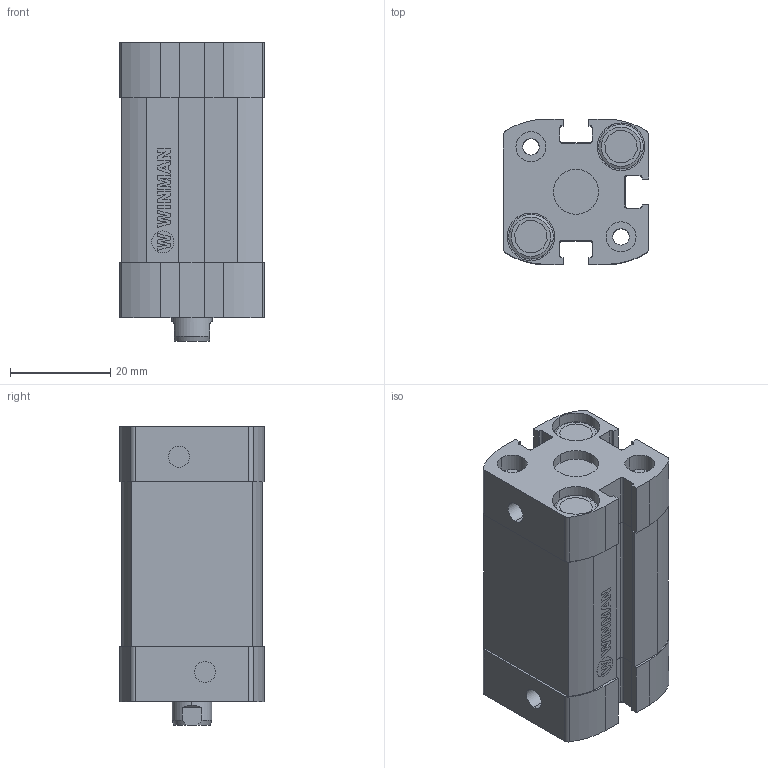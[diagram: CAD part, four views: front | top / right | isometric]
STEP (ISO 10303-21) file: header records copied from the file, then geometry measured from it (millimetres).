
FILE_DESCRIPTION (( 'STEP AP214' ), '1' );
FILE_NAME ('WPCX-016-0020 (3D).STEP', '2025-08-04T08:14:11', ( '' ), ( '' ), 'SwSTEP 2.0', 'SolidWorks 2023', '' );
FILE_SCHEMA (( 'AUTOMOTIVE_DESIGN' ));
Length unit declared in the file: millimetre
Products named in the file (3): WPCX-016-0020 (3D); Group1^WPCX-016-0020 (3D)_defeature; Group2^WPCX-016-0020 (3D)_defeature
Assembly tree (2 placements, depth 2):
  WPCX-016-0020 (3D)
    Group1^WPCX-016-0020 (3D)_defeature
    Group2^WPCX-016-0020 (3D)_defeature
Bounding box: 29 x 29 x 59.65 mm (x, y, z)
Volume: 36681.9 mm3; surface area: 23338.9 mm2
Topology: 8 solids, 8 shells, 567 faces, 1434 edges, 935 vertices
Faces by surface type: plane 303, cylinder 182, cone 54, torus 16, bspline 12
Entity records: 23821 total; most frequent: CARTESIAN_POINT 3399, DIRECTION 2976, ORIENTED_EDGE 2864, EDGE_CURVE 1432, AXIS2_PLACEMENT_3D 1016, VECTOR 944, LINE 944, VERTEX_POINT 935
